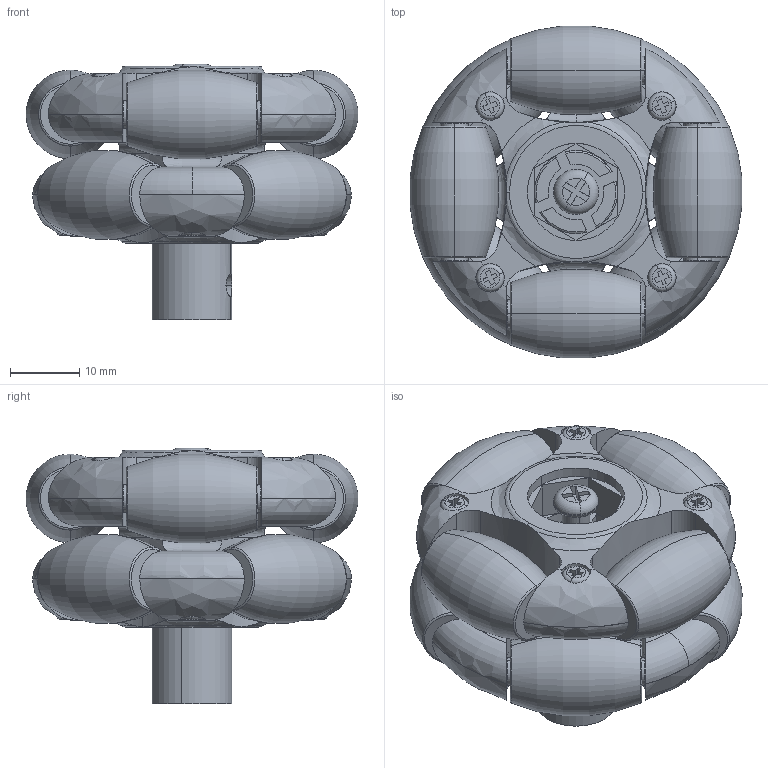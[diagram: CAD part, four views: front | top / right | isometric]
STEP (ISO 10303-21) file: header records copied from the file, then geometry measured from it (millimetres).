
FILE_DESCRIPTION (( 'STEP AP214' ), '1' );
FILE_NAME ('MO105.STEP', '2018-12-04T12:18:17', ( 'Windows 蚚誧' ), ( '' ), 'SwSTEP 2.0', 'SolidWorks 2018', '' );
FILE_SCHEMA (( 'AUTOMOTIVE_DESIGN' ));
Length unit declared in the file: millimetre
Products named in the file (8): 苤幗謫; 半圆头内六角螺丝(M4X6); 笢潔蟀諉璃B; 薊粣ん; 俋晚えB; 圉埴芛坋趼蹟佪(M2.5X8); MO105; 嫖粣
Assembly tree (29 placements, depth 2):
  MO105
    圉埴芛坋趼蹟佪(M2.5X8)  x8
    嫖粣  x8
    苤幗謫  x8
    薊粣ん
    笢潔蟀諉璃B
    俋晚えB  x2
    半圆头内六角螺丝(M4X6)
Bounding box: 47.85 x 47.85 x 36.85 mm (x, y, z)
Volume: 28955.2 mm3; surface area: 25384.4 mm2
Topology: 29 solids, 29 shells, 1071 faces, 2676 edges, 1752 vertices
Faces by surface type: cylinder 476, plane 385, cone 104, torus 86, bspline 20
Entity records: 18649 total; most frequent: CARTESIAN_POINT 4615, DIRECTION 3031, ORIENTED_EDGE 2820, EDGE_CURVE 1410, AXIS2_PLACEMENT_3D 1216, VERTEX_POINT 933, CIRCLE 673, LINE 599
